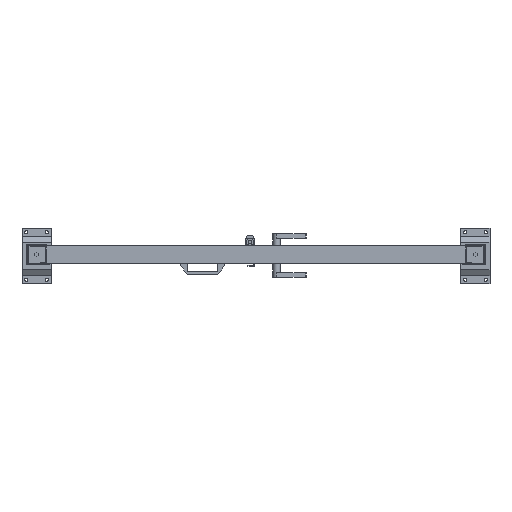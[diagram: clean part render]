
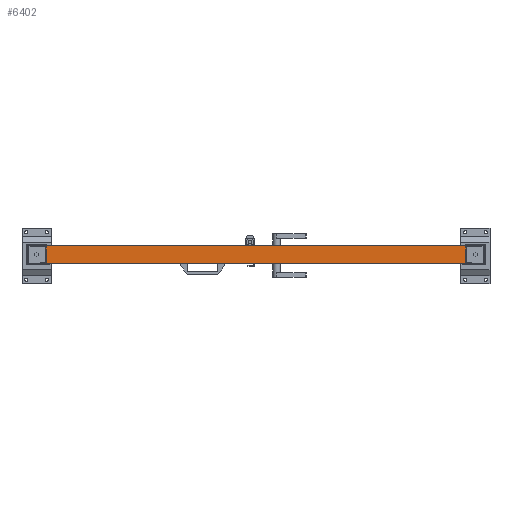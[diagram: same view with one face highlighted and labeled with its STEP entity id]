
A CAD part, top view. The second image highlights one B-rep face of the part: STEP entity #6402.
In plain terms, the highlighted planar face has unit normal (0, 0, 1).
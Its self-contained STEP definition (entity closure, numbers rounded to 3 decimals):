
#851=FACE_OUTER_BOUND('',#1179,.T.);
#1179=EDGE_LOOP('',(#4601,#4602,#4603,#4604));
#1599=LINE('',#9178,#2329);
#1600=LINE('',#9181,#2330);
#1601=LINE('',#9183,#2331);
#1602=LINE('',#9184,#2332);
#2329=VECTOR('',#7371,1.);
#2330=VECTOR('',#7374,1.);
#2331=VECTOR('',#7375,1.);
#2332=VECTOR('',#7376,1.);
#3036=VERTEX_POINT('',#9171);
#3039=VERTEX_POINT('',#9176);
#3040=VERTEX_POINT('',#9180);
#3041=VERTEX_POINT('',#9182);
#3675=EDGE_CURVE('',#3036,#3039,#1599,.T.);
#3676=EDGE_CURVE('',#3040,#3036,#1600,.T.);
#3677=EDGE_CURVE('',#3041,#3039,#1601,.T.);
#3678=EDGE_CURVE('',#3040,#3041,#1602,.T.);
#4601=ORIENTED_EDGE('',*,*,#3676,.T.);
#4602=ORIENTED_EDGE('',*,*,#3675,.T.);
#4603=ORIENTED_EDGE('',*,*,#3677,.F.);
#4604=ORIENTED_EDGE('',*,*,#3678,.F.);
#6148=PLANE('',#6756);
#6402=ADVANCED_FACE('',(#851),#6148,.T.);
#6756=AXIS2_PLACEMENT_3D('',#9179,#7372,#7373);
#7371=DIRECTION('',(1.,0.,0.));
#7372=DIRECTION('center_axis',(0.,0.,1.));
#7373=DIRECTION('ref_axis',(0.,-1.,0.));
#7374=DIRECTION('',(0.,-1.,0.));
#7375=DIRECTION('',(0.,-1.,0.));
#7376=DIRECTION('',(1.,0.,0.));
#9171=CARTESIAN_POINT('',(2042.699,1594.412,2599.));
#9176=CARTESIAN_POINT('',(3482.699,1594.412,2599.));
#9178=CARTESIAN_POINT('',(2042.699,1594.412,2599.));
#9179=CARTESIAN_POINT('Origin',(2042.699,1654.412,2599.));
#9180=CARTESIAN_POINT('',(2042.699,1654.412,2599.));
#9181=CARTESIAN_POINT('',(2042.699,1654.412,2599.));
#9182=CARTESIAN_POINT('',(3482.699,1654.412,2599.));
#9183=CARTESIAN_POINT('',(3482.699,1654.412,2599.));
#9184=CARTESIAN_POINT('',(2042.699,1654.412,2599.));
